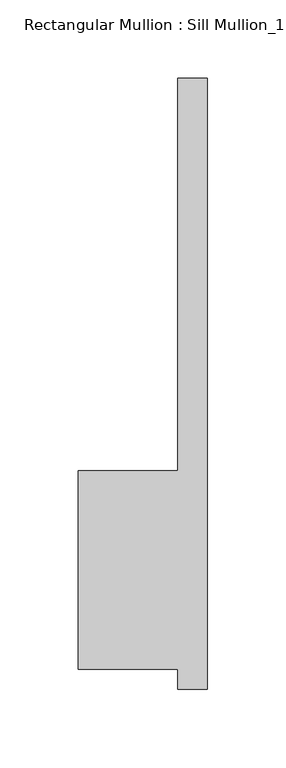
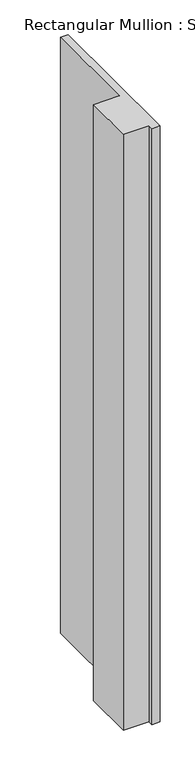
"""IFC4 building model written with IfcOpenShell, lengths in millimetres: member geometry."""

from ifc_helpers import new_model, si_unit, frame, origin, place, context, project, spatial, polyline, outline, extrude, source, transform, mapped, element, save


def member_bbd814ca(model_context):
    return source(origin(), model_context, "Body", "SweptSolid", [
        extrude(outline(polyline([(-82.55, 50.8), (-19.05, 50.8), (-19.05, 301.625), (0.0, 301.625), (0.0, -88.9), (-19.05, -88.9), (-19.05, -76.2), (-82.55, -76.2), (-82.55, 50.8)])), frame((0.0, 0.0, -1549.4), z_axis=(0.0, 0.0, 1.0), x_axis=(1.0, 0.0, 0.0)), (0.0, 0.0, 1.0), 1549.4),
    ])


if __name__ == "__main__":
    model = new_model("IFC4")
    model_context = context("Model", 3, world=origin())
    ifc_project = project(units=[si_unit("LENGTHUNIT", "METRE", prefix="MILLI")], contexts=[model_context])
    site = spatial("IfcSite", under=ifc_project)
    building = spatial("IfcBuilding", under=site)
    placement = place(None, origin())
    member_shape = member_bbd814ca(model_context)
    element("IfcMember", 1, ObjectType="Rectangular Mullion : Sill Mullion_15\" thick wall", at=placement, inside=building, context=model_context, shape_type="MappedRepresentation", body=[
        mapped(member_shape, transform((0.0, 0.0, 0.0), x_axis=(1.0, 0.0, 0.0), y_axis=(0.0, 1.0, 0.0), z_axis=(0.0, 0.0, 1.0))),
    ])
    save(model, "model.ifc")
